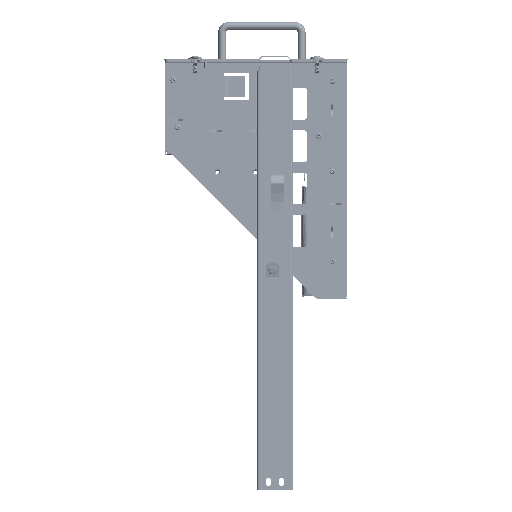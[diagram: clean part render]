
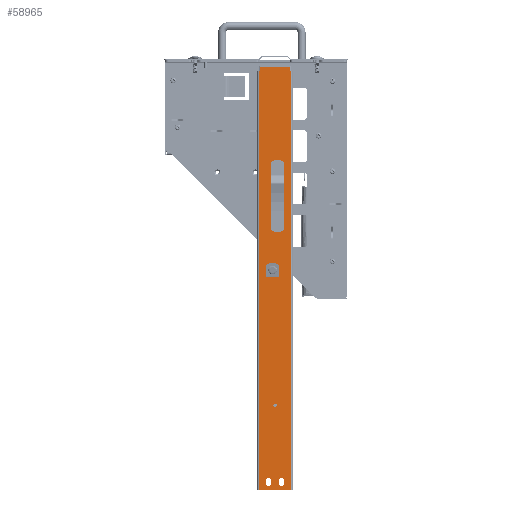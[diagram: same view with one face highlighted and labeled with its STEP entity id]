
A CAD part, left-side view. The second image highlights one B-rep face of the part: STEP entity #58965.
In plain terms, the highlighted planar face has unit normal (-1, 0, 0) as drawn and (1, 0, 0) by its records, which use the part's own axes.
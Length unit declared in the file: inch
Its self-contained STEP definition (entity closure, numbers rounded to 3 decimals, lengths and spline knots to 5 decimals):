
#57305=DIRECTION('',(0.,0.,-1.));
#57306=VECTOR('',#57305,0.174);
#57307=CARTESIAN_POINT('',(0.,0.69,-0.076));
#57308=LINE('',#57307,#57306);
#57312=DIRECTION('',(0.,-1.,0.));
#57313=VECTOR('',#57312,0.063);
#57314=CARTESIAN_POINT('',(0.,0.753,-0.25));
#57315=LINE('',#57314,#57313);
#57319=DIRECTION('',(0.,0.,-1.));
#57320=VECTOR('',#57319,19.75);
#57321=CARTESIAN_POINT('',(0.,-0.753,-0.25));
#57322=LINE('',#57321,#57320);
#57326=DIRECTION('',(0.,1.,0.));
#57327=VECTOR('',#57326,0.063);
#57328=CARTESIAN_POINT('',(0.,-0.753,-0.25));
#57329=LINE('',#57328,#57327);
#57333=DIRECTION('',(0.,0.,-1.));
#57334=VECTOR('',#57333,0.174);
#57335=CARTESIAN_POINT('',(0.,-0.69,-0.076));
#57336=LINE('',#57335,#57334);
#57340=CARTESIAN_POINT('',(0.,0.125,-4.75));
#57341=DIRECTION('',(1.,0.,0.));
#57342=DIRECTION('',(0.,0.,-1.));
#57343=AXIS2_PLACEMENT_3D('',#57340,#57341,#57342);
#57348=CARTESIAN_POINT('',(0.,0.125,-4.75));
#57349=DIRECTION('',(1.,0.,0.));
#57350=DIRECTION('',(0.,0.,1.));
#57351=AXIS2_PLACEMENT_3D('',#57348,#57349,#57350);
#57356=CARTESIAN_POINT('',(0.,0.312,-19.714));
#57357=DIRECTION('',(1.,0.,0.));
#57358=DIRECTION('',(0.,-1.,0.));
#57359=AXIS2_PLACEMENT_3D('',#57356,#57357,#57358);
#57364=DIRECTION('',(0.,0.,1.));
#57365=VECTOR('',#57364,0.188);
#57366=CARTESIAN_POINT('',(0.,0.421,-19.714));
#57367=LINE('',#57366,#57365);
#57371=CARTESIAN_POINT('',(0.,0.312,-19.526));
#57372=DIRECTION('',(1.,0.,0.));
#57373=DIRECTION('',(0.,1.,0.));
#57374=AXIS2_PLACEMENT_3D('',#57371,#57372,#57373);
#57379=DIRECTION('',(0.,0.,-1.));
#57380=VECTOR('',#57379,0.188);
#57381=CARTESIAN_POINT('',(0.,0.203,-19.526));
#57382=LINE('',#57381,#57380);
#57386=DIRECTION('',(0.,0.,1.));
#57387=VECTOR('',#57386,0.188);
#57388=CARTESIAN_POINT('',(0.,-0.204,-19.714));
#57389=LINE('',#57388,#57387);
#57393=CARTESIAN_POINT('',(0.,-0.313,-19.526));
#57394=DIRECTION('',(1.,0.,0.));
#57395=DIRECTION('',(0.,1.,0.));
#57396=AXIS2_PLACEMENT_3D('',#57393,#57394,#57395);
#57401=DIRECTION('',(0.,0.,-1.));
#57402=VECTOR('',#57401,0.188);
#57403=CARTESIAN_POINT('',(0.,-0.422,-19.526));
#57404=LINE('',#57403,#57402);
#57408=CARTESIAN_POINT('',(0.,-0.313,-19.714));
#57409=DIRECTION('',(1.,0.,0.));
#57410=DIRECTION('',(0.,-1.,0.));
#57411=AXIS2_PLACEMENT_3D('',#57408,#57409,#57410);
#57416=CARTESIAN_POINT('',(0.,0.005,-16.));
#57417=DIRECTION('',(1.,0.,0.));
#57418=DIRECTION('',(0.,0.,1.));
#57419=AXIS2_PLACEMENT_3D('',#57416,#57417,#57418);
#57424=CARTESIAN_POINT('',(0.,0.005,-16.));
#57425=DIRECTION('',(1.,0.,0.));
#57426=DIRECTION('',(0.,0.,-1.));
#57427=AXIS2_PLACEMENT_3D('',#57424,#57425,#57426);
#57651=DIRECTION('',(0.,0.,-1.));
#57652=VECTOR('',#57651,19.75);
#57653=CARTESIAN_POINT('',(0.,0.753,-0.25));
#57654=LINE('',#57653,#57652);
#57679=DIRECTION('',(0.,1.,0.));
#57680=VECTOR('',#57679,1.506);
#57681=CARTESIAN_POINT('',(0.,-0.753,-20.));
#57682=LINE('',#57681,#57680);
#57937=DIRECTION('',(0.,-1.,0.));
#57938=VECTOR('',#57937,1.38);
#57939=CARTESIAN_POINT('',(0.,0.69,-0.076));
#57940=LINE('',#57939,#57938);
#58235=CARTESIAN_POINT('',(0.,-0.753,-20.));
#58236=VERTEX_POINT('',#58235);
#58237=CARTESIAN_POINT('',(0.,0.753,-20.));
#58238=VERTEX_POINT('',#58237);
#58264=CARTESIAN_POINT('',(0.,-0.753,-0.25));
#58266=VERTEX_POINT('',#58264);
#58267=CARTESIAN_POINT('',(0.,0.753,-0.25));
#58268=CARTESIAN_POINT('',(0.,0.69,-0.25));
#58269=VERTEX_POINT('',#58267);
#58270=VERTEX_POINT('',#58268);
#58271=CARTESIAN_POINT('',(0.,-0.69,-0.25));
#58272=VERTEX_POINT('',#58271);
#58307=CARTESIAN_POINT('',(0.,-0.69,-0.076));
#58308=VERTEX_POINT('',#58307);
#58309=CARTESIAN_POINT('',(0.,0.69,-0.076));
#58310=VERTEX_POINT('',#58309);
#58363=CARTESIAN_POINT('',(0.,0.125,-5.0155));
#58364=CARTESIAN_POINT('',(0.,0.125,-4.4845));
#58365=VERTEX_POINT('',#58363);
#58366=VERTEX_POINT('',#58364);
#58371=CARTESIAN_POINT('',(0.,0.203,-19.714));
#58372=CARTESIAN_POINT('',(0.,0.421,-19.714));
#58373=VERTEX_POINT('',#58371);
#58374=VERTEX_POINT('',#58372);
#58375=CARTESIAN_POINT('',(0.,0.421,-19.526));
#58376=VERTEX_POINT('',#58375);
#58377=CARTESIAN_POINT('',(0.,0.203,-19.526));
#58378=VERTEX_POINT('',#58377);
#58379=CARTESIAN_POINT('',(0.,-0.204,-19.714));
#58380=CARTESIAN_POINT('',(0.,-0.204,-19.526));
#58381=VERTEX_POINT('',#58379);
#58382=VERTEX_POINT('',#58380);
#58383=CARTESIAN_POINT('',(0.,-0.422,-19.526));
#58384=VERTEX_POINT('',#58383);
#58385=CARTESIAN_POINT('',(0.,-0.422,-19.714));
#58386=VERTEX_POINT('',#58385);
#58459=CARTESIAN_POINT('',(0.,0.005,-15.935));
#58460=CARTESIAN_POINT('',(0.,0.005,-16.065));
#58461=VERTEX_POINT('',#58459);
#58462=VERTEX_POINT('',#58460);
#58913=CARTESIAN_POINT('',(0.,-0.753,0.));
#58914=DIRECTION('',(1.,0.,0.));
#58915=DIRECTION('',(0.,1.,0.));
#58916=AXIS2_PLACEMENT_3D('',#58913,#58914,#58915);
#58917=PLANE('',#58916);
#58918=ORIENTED_EDGE('',*,*,#58903,.T.);
#58920=ORIENTED_EDGE('',*,*,#58919,.F.);
#58922=ORIENTED_EDGE('',*,*,#58921,.T.);
#58924=ORIENTED_EDGE('',*,*,#58923,.F.);
#58925=ORIENTED_EDGE('',*,*,#58804,.F.);
#58926=ORIENTED_EDGE('',*,*,#58824,.T.);
#58928=ORIENTED_EDGE('',*,*,#58927,.F.);
#58930=ORIENTED_EDGE('',*,*,#58929,.F.);
#58931=EDGE_LOOP('',(#58918,#58920,#58922,#58924,#58925,#58926,#58928,#58930));
#58932=FACE_OUTER_BOUND('',#58931,.F.);
#58934=ORIENTED_EDGE('',*,*,#58933,.T.);
#58936=ORIENTED_EDGE('',*,*,#58935,.T.);
#58937=EDGE_LOOP('',(#58934,#58936));
#58938=FACE_BOUND('',#58937,.F.);
#58940=ORIENTED_EDGE('',*,*,#58939,.T.);
#58942=ORIENTED_EDGE('',*,*,#58941,.T.);
#58944=ORIENTED_EDGE('',*,*,#58943,.T.);
#58946=ORIENTED_EDGE('',*,*,#58945,.T.);
#58947=EDGE_LOOP('',(#58940,#58942,#58944,#58946));
#58948=FACE_BOUND('',#58947,.F.);
#58950=ORIENTED_EDGE('',*,*,#58949,.T.);
#58952=ORIENTED_EDGE('',*,*,#58951,.T.);
#58954=ORIENTED_EDGE('',*,*,#58953,.T.);
#58956=ORIENTED_EDGE('',*,*,#58955,.T.);
#58957=EDGE_LOOP('',(#58950,#58952,#58954,#58956));
#58958=FACE_BOUND('',#58957,.F.);
#58960=ORIENTED_EDGE('',*,*,#58959,.T.);
#58962=ORIENTED_EDGE('',*,*,#58961,.T.);
#58963=EDGE_LOOP('',(#58960,#58962));
#58964=FACE_BOUND('',#58963,.F.);
#58965=ADVANCED_FACE('',(#58932,#58938,#58948,#58958,#58964),#58917,.T.);
#57344=CIRCLE('',#57343,0.2655);
#57352=CIRCLE('',#57351,0.2655);
#57360=CIRCLE('',#57359,0.109);
#57375=CIRCLE('',#57374,0.109);
#57397=CIRCLE('',#57396,0.109);
#57412=CIRCLE('',#57411,0.109);
#57420=CIRCLE('',#57419,0.065);
#57428=CIRCLE('',#57427,0.065);
#58804=EDGE_CURVE('',#58266,#58236,#57322,.T.);
#58824=EDGE_CURVE('',#58266,#58272,#57329,.T.);
#58903=EDGE_CURVE('',#58310,#58270,#57308,.T.);
#58919=EDGE_CURVE('',#58269,#58270,#57315,.T.);
#58921=EDGE_CURVE('',#58269,#58238,#57654,.T.);
#58923=EDGE_CURVE('',#58236,#58238,#57682,.T.);
#58927=EDGE_CURVE('',#58308,#58272,#57336,.T.);
#58929=EDGE_CURVE('',#58310,#58308,#57940,.T.);
#58933=EDGE_CURVE('',#58365,#58366,#57344,.T.);
#58935=EDGE_CURVE('',#58366,#58365,#57352,.T.);
#58939=EDGE_CURVE('',#58373,#58374,#57360,.T.);
#58941=EDGE_CURVE('',#58374,#58376,#57367,.T.);
#58943=EDGE_CURVE('',#58376,#58378,#57375,.T.);
#58945=EDGE_CURVE('',#58378,#58373,#57382,.T.);
#58949=EDGE_CURVE('',#58381,#58382,#57389,.T.);
#58951=EDGE_CURVE('',#58382,#58384,#57397,.T.);
#58953=EDGE_CURVE('',#58384,#58386,#57404,.T.);
#58955=EDGE_CURVE('',#58386,#58381,#57412,.T.);
#58959=EDGE_CURVE('',#58461,#58462,#57420,.T.);
#58961=EDGE_CURVE('',#58462,#58461,#57428,.T.);
